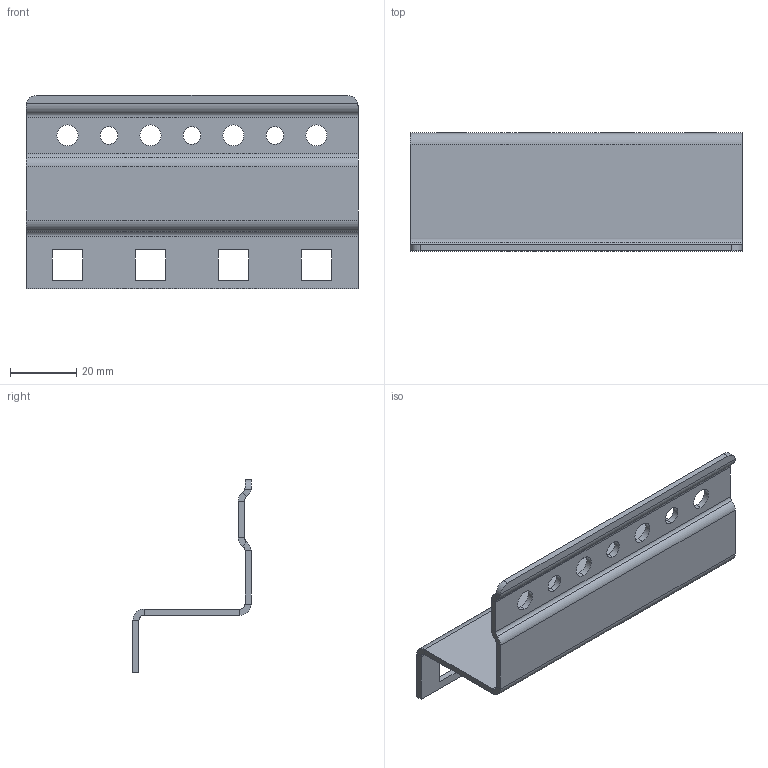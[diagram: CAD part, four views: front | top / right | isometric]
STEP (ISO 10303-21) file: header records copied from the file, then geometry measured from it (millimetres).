
FILE_DESCRIPTION (( 'STEP AP203' ), '1' );
FILE_NAME ('67090.step', '2013-04-17T07:19:01', ( '' ), ( '' ), 'SwSTEP 2.0', 'SolidWorks 2010', '' );
FILE_SCHEMA (( 'CONFIG_CONTROL_DESIGN' ));
Length unit declared in the file: inch
Products named in the file (2): 67090; 87786275
Assembly tree (1 placements, depth 2):
  67090
    87786275
Bounding box: 100 x 35.61 x 58.17 mm (x, y, z)
Volume: 15690.5 mm3; surface area: 18360 mm2
Topology: 1 solids, 1 shells, 76 faces, 186 edges, 112 vertices
Faces by surface type: plane 48, cylinder 28
Entity records: 2450 total; most frequent: DIRECTION 398, CARTESIAN_POINT 394, ORIENTED_EDGE 372, EDGE_CURVE 186, AXIS2_PLACEMENT_3D 136, VECTOR 126, LINE 126, VERTEX_POINT 112
